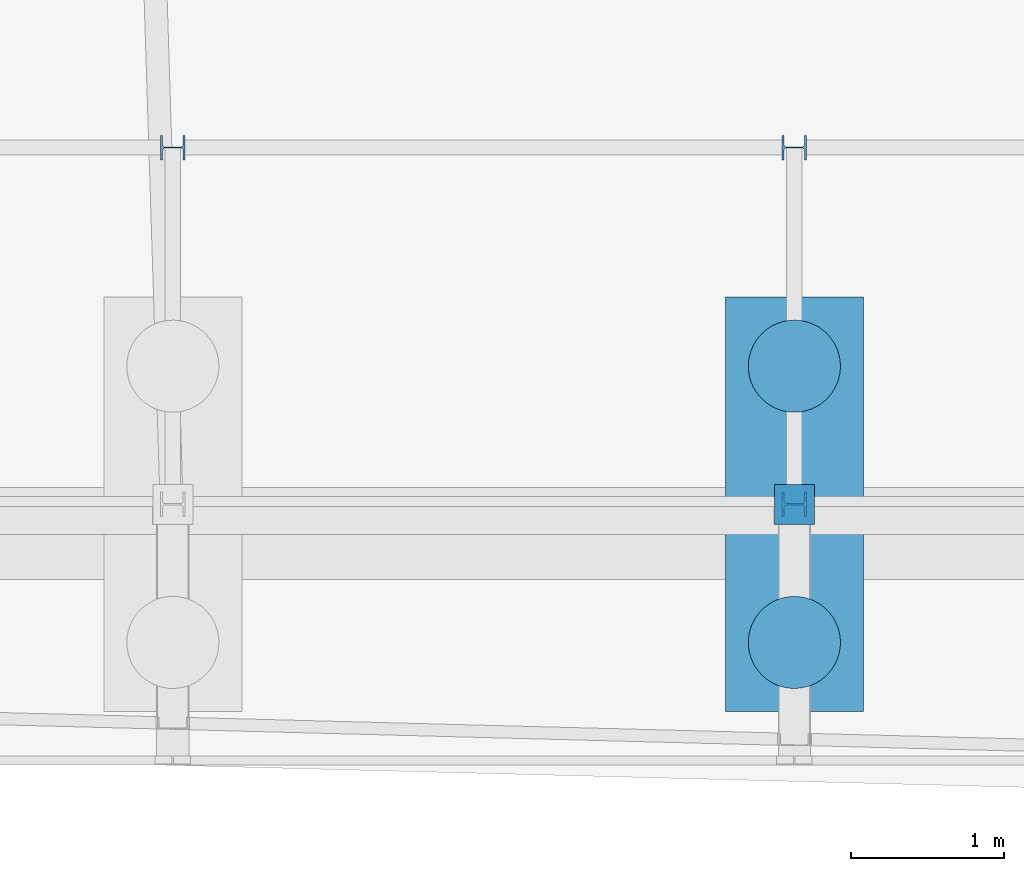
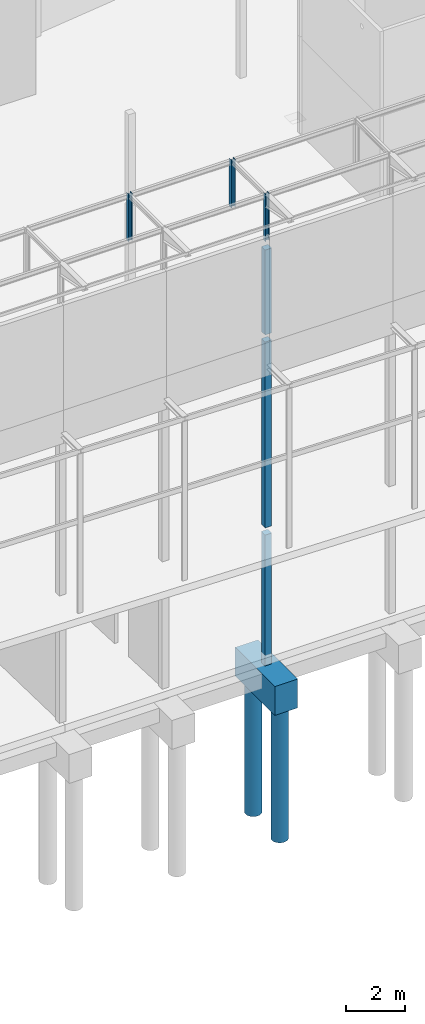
# One storey, part 35 of 82: 9 columns.
"""IFC2X3 building model written with IfcOpenShell, lengths in millimetres."""

from ifc_helpers import new_model, si_unit, frame, frame_2d, origin_with_axes, place, context, subcontext, project, spatial, rectangle, circle, i_section, extrude, material, type_object, element, save


model = new_model("IFC2X3")

# Units and contexts
model_context = context("Model", 3, precision=1e-05, world=origin_with_axes())
body_context = subcontext(model_context, "Body", "Model", "MODEL_VIEW")
ifc_project = project(units=[si_unit("LENGTHUNIT", "METRE", prefix="MILLI"), si_unit("AREAUNIT", "SQUARE_METRE"), si_unit("VOLUMEUNIT", "CUBIC_METRE"), si_unit("MASSUNIT", "GRAM", prefix="KILO"), si_unit("TIMEUNIT", "SECOND"), si_unit("PLANEANGLEUNIT", "RADIAN"), si_unit("SOLIDANGLEUNIT", "STERADIAN"), si_unit("THERMODYNAMICTEMPERATUREUNIT", "DEGREE_CELSIUS"), si_unit("LUMINOUSINTENSITYUNIT", "LUMEN")], contexts=[model_context])

# Site, building, storey
site_placement = place(None, origin_with_axes())
site = spatial("IfcSite", under=ifc_project, at=site_placement, Name="Undefined", CompositionType="ELEMENT")
building_placement = place(site_placement, origin_with_axes())
building = spatial("IfcBuilding", under=site, at=building_placement, Name="Undefined", CompositionType="ELEMENT")
storey_placement = place(building_placement, origin_with_axes())
storey = spatial("IfcBuildingStorey", under=building, at=storey_placement, Name="Undefined", CompositionType="ELEMENT", Elevation=0.0)

# Columns
ifc_material_1 = material(Name="CONCRETE/C25/30")
column_type_1 = type_object("IfcColumnType", Name="260*260", PredefinedType="NOTDEFINED")
column_1_placement = place(storey_placement, frame((37349.9999999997, -3.04496268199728e-08, 13330.0), z_axis=(0.0, 0.0, 1.0), x_axis=(1.0, 0.0, 0.0)))
element("IfcColumn", 1, at=column_1_placement, inside=storey, type_object=column_type_1, material=ifc_material_1, Name="POTEAU", ObjectType="260*260", context=body_context, shape_type="SweptSolid", body=[
    extrude(rectangle(XDim=260.0, YDim=260.0, at=frame_2d((5.17284206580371e-08, 4.49290382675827e-10), x_axis=(1.0, 0.0))), frame((0.0, 0.0, 3529.99999999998), z_axis=(0.0, -6.50000002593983e-08, -0.999999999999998), x_axis=(-1.0, 0.0, 0.0)), (0.0, 0.0, 1.0), 3530.0),
])
column_2_placement = place(storey_placement, frame((37349.9999999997, -3.04496268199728e-08, 5300.0), z_axis=(0.0, 0.0, 1.0), x_axis=(1.0, 0.0, 0.0)))
element("IfcColumn", 2, at=column_2_placement, inside=storey, type_object=column_type_1, material=ifc_material_1, Name="POTEAU", ObjectType="260*260", context=body_context, shape_type="SweptSolid", body=[
    extrude(rectangle(XDim=260.0, YDim=260.0, at=frame_2d((5.17284206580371e-08, 4.49290382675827e-10), x_axis=(1.0, 0.0))), frame((0.0, 0.0, 7730.0), z_axis=(0.0, -6.50000002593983e-08, -0.999999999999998), x_axis=(-1.0, 0.0, 0.0)), (0.0, 0.0, 1.0), 7730.0),
])
column_3_placement = place(storey_placement, frame((37349.9999999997, -3.04496268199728e-08, -450.0), z_axis=(0.0, 0.0, 1.0), x_axis=(1.0, 0.0, 0.0)))
element("IfcColumn", 3, at=column_3_placement, inside=storey, type_object=column_type_1, material=ifc_material_1, Name="POTEAU", ObjectType="260*260", context=body_context, shape_type="SweptSolid", body=[
    extrude(rectangle(XDim=260.0, YDim=260.0, at=frame_2d((5.17284206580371e-08, 4.49290382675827e-10), x_axis=(1.0, 0.0))), frame((0.0, 0.0, 5450.00000000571), z_axis=(0.0, -6.50000002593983e-08, -0.999999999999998), x_axis=(-1.0, 0.0, 0.0)), (0.0, 0.0, 1.0), 5450.0),
])
ifc_material_2 = material(Name="STEEL/S275JR")
column_type_2 = type_object("IfcColumnType", Name="HEB160", PredefinedType="NOTDEFINED")
for number, where, z_axis, x_axis, name in (
    (4, (37350.0000000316, -6.87980161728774e-08, 17160.0), (0.0, 0.0, 1.0), (1.0, 0.0, 0.0), "POTEAU"),
    (5, (37350.0000011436, 2324.99999963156, 17160.0), (0.0, 0.0, 1.0), (1.0, 0.0, 0.0), "POTEAU"),
    (6, (33300.0000011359, 2324.999999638, 17160.0), (0.0, 0.0, 1.0), (1.0, 0.0, 0.0), "POTEAU"),
):
    element("IfcColumn", number, at=place(storey_placement, frame(where, z_axis=z_axis, x_axis=x_axis)), inside=storey, type_object=column_type_2, material=ifc_material_2, Name=name, ObjectType="HEB160", context=body_context, shape_type="SweptSolid", body=[
        extrude(i_section(OverallWidth=160.0, OverallDepth=160.0, WebThickness=8.0, FlangeThickness=13.0, FilletRadius=15.0, at=frame_2d((5.17284206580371e-08, 4.49290382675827e-10), x_axis=(1.0, 0.0))), frame((0.0, 0.0, 1965.0), z_axis=(0.0, -6.50000002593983e-08, -0.999999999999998), x_axis=(-2.77555756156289e-17, -1.0, 0.0)), (0.0, 0.0, 1.0), 1965.0),
    ])
ifc_material_3 = material(Name="CONCRETE/C30/37")
column_type_3 = type_object("IfcColumnType", Name="2700*900", PredefinedType="NOTDEFINED")
column_4_placement = place(storey_placement, frame((37350.0000000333, -1.46119617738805e-07, -1650.0), z_axis=(0.0, 0.0, 1.0), x_axis=(1.0, 0.0, 0.0)))
element("IfcColumn", 7, at=column_4_placement, inside=storey, type_object=column_type_3, material=ifc_material_3, Name="SEMELLE", ObjectType="2700*900", context=body_context, shape_type="SweptSolid", body=[
    extrude(rectangle(XDim=900.0, YDim=2700.0, at=frame_2d((5.17284206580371e-08, 4.49290382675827e-10), x_axis=(1.0, 0.0))), frame((0.0, 0.0, 1200.0), z_axis=(0.0, -6.50000002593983e-08, -0.999999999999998), x_axis=(-1.0, 0.0, 0.0)), (0.0, 0.0, 1.0), 1200.0),
])
column_type_4 = type_object("IfcColumnType", Name="D600", PredefinedType="NOTDEFINED")
for number, where, z_axis, x_axis in (
    (8, (37350.0000000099, -900.000000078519, -7175.0), (0.0, 0.0, 1.0), (1.0, 0.0, 0.0)),
    (9, (37350.0000000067, 899.999999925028, -7175.0), (0.0, 0.0, 1.0), (1.0, 0.0, 0.0)),
):
    element("IfcColumn", number, at=place(storey_placement, frame(where, z_axis=z_axis, x_axis=x_axis)), inside=storey, type_object=column_type_4, material=ifc_material_1, Name="PIEU", ObjectType="D600", context=body_context, shape_type="SweptSolid", body=[
        extrude(circle(Radius=300.0, at=frame_2d((5.17284206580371e-08, 4.49290382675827e-10), x_axis=(1.0, 0.0))), frame((0.0, 0.0, 5750.0), z_axis=(0.0, -6.50000002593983e-08, -0.999999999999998), x_axis=(-1.0, 0.0, 0.0)), (0.0, 0.0, 1.0), 5750.0),
    ])

save(model, "model.ifc")
